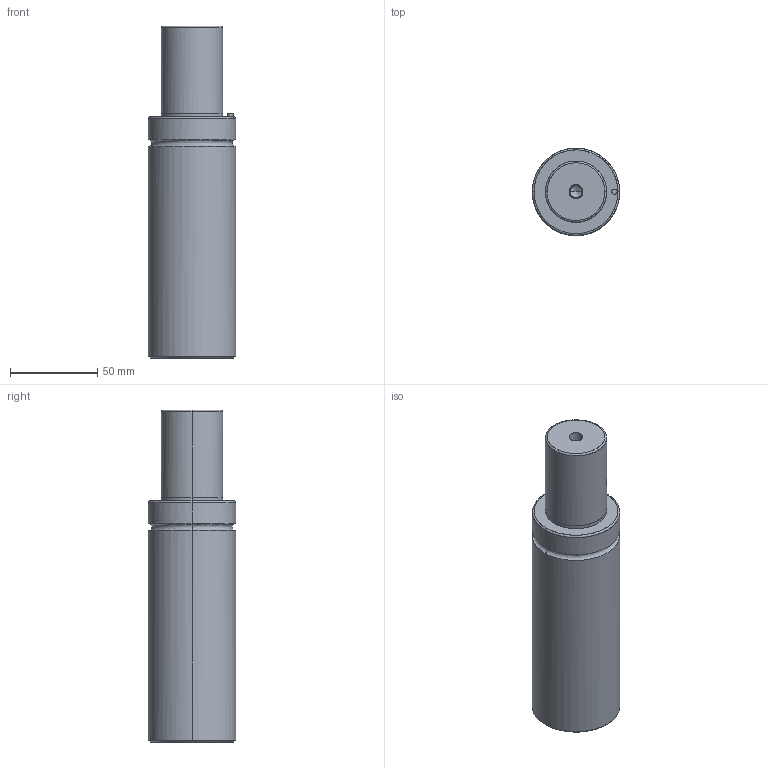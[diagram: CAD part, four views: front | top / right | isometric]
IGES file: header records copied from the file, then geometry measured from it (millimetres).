
Global section: file name: E:\UnigraphicsGraphicData\MISUMI_PRESS-PARTS\IGES\3d_gsm50-50_03935_r00.igs; native system: NX V5.0; preprocessor: UGS NX IGES V5.0; author: MISUMI; date: 20110105.160816; units: millimetre
Bounding box: 50 x 49.86 x 190 mm (x, y, z)
Surface area: 32884.1 mm2 (no closed solid volume)
Topology: 0 solids, 0 shells, 50 faces, 344 edges, 336 vertices
Faces by surface type: bspline 50
